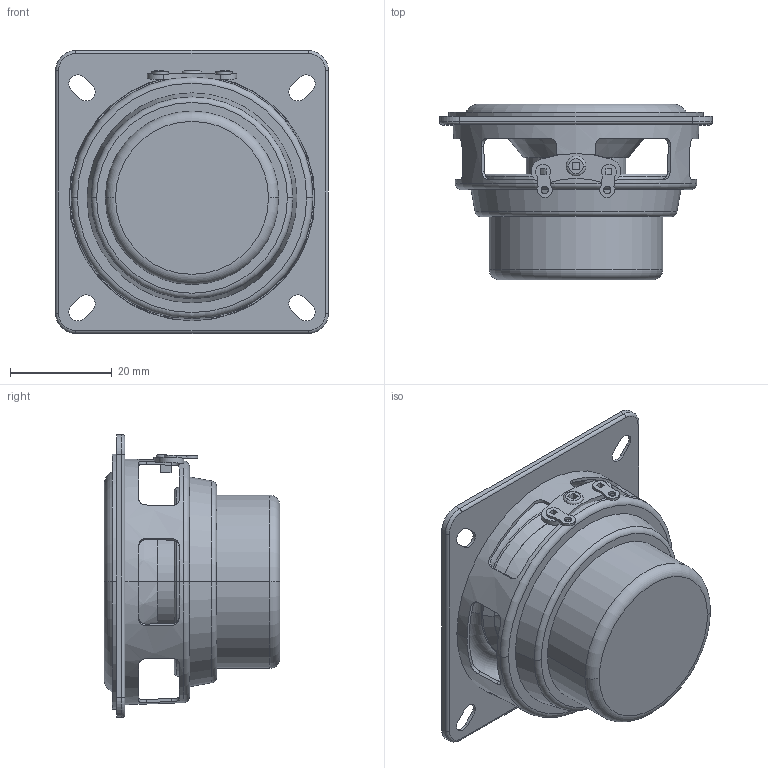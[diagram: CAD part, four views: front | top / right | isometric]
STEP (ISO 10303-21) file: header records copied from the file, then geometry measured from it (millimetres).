
FILE_DESCRIPTION((''),'2;1');
FILE_NAME('055B9Y09-E_ASM','2023-09-25T09:03:45',('54257'),(''),'CREO PARAMETRIC BY PTC INC, 2020053','CREO PARAMETRIC BY PTC INC, 2020053','');
FILE_SCHEMA(('CONFIG_CONTROL_DESIGN','SHAPE_APPEARANCE_LAYERS_GROUPS'));
Length unit declared in the file: millimetre
Products named in the file (10): HF-2002-_01; HM_9F0_01; HP_9F0_01; HM-1_9F0_01; HV_9F0_01; HA_9F0_01; HC_9F0_01; HD_9F0_01; HT_9F0_01; 055B9Y09-E_ASM
Assembly tree (9 placements, depth 2):
  055B9Y09-E_ASM
    HF-2002-_01
    HM_9F0_01
    HP_9F0_01
    HM-1_9F0_01
    HV_9F0_01
    HA_9F0_01
    HC_9F0_01
    HD_9F0_01
    HT_9F0_01
Bounding box: 53.5 x 34.45 x 55.5 mm (x, y, z)
Volume: 13866.6 mm3; surface area: 26117.8 mm2
Topology: 9 solids, 9 shells, 281 faces, 674 edges, 416 vertices
Faces by surface type: plane 93, cylinder 90, cone 50, torus 44, sphere 4
Entity records: 11827 total; most frequent: CARTESIAN_POINT 1926, DIRECTION 1512, ORIENTED_EDGE 1340, PRESENTATION_STYLE_ASSIGNMENT 797, STYLED_ITEM 797, EDGE_CURVE 670, CURVE_STYLE 652, AXIS2_PLACEMENT_3D 622
